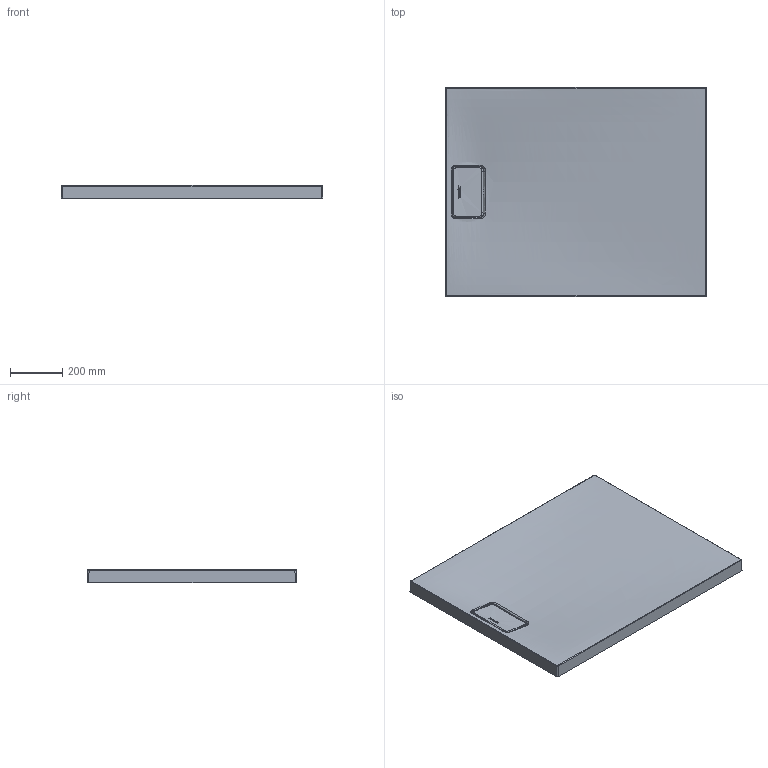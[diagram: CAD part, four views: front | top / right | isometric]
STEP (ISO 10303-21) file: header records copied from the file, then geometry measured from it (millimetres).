
FILE_DESCRIPTION((''),'2;1');
FILE_NAME('C:\Users\Administrator\Desktop\NEWS 2015 Step 1\Stonetto DW\3d\stp\720147.stp','2015-06-23T08:24:34',('Administrator'),(''),'Autodesk Inventor 2011','Autodesk Inventor 2011','');
FILE_SCHEMA(('CONFIG_CONTROL_DESIGN'));
Length unit declared in the file: millimetre
Products named in the file (3): 720147; Ablaufabdeckung
Assembly tree (2 placements, depth 2):
  720147
    720147
    Ablaufabdeckung
Bounding box: 998 x 798 x 50.03 mm (x, y, z)
Volume: 10849130.8 mm3; surface area: 2031942.3 mm2
Topology: 2 solids, 2 shells, 770 faces, 1951 edges, 1210 vertices
Faces by surface type: bspline 337, plane 267, cylinder 128, torus 17, sphere 16, cone 5
Entity records: 83886 total; most frequent: CARTESIAN_POINT 67467, ORIENTED_EDGE 3868, DIRECTION 2297, EDGE_CURVE 1934, VERTEX_POINT 1206, B_SPLINE_CURVE_WITH_KNOTS 973, AXIS2_PLACEMENT_3D 898, EDGE_LOOP 810
